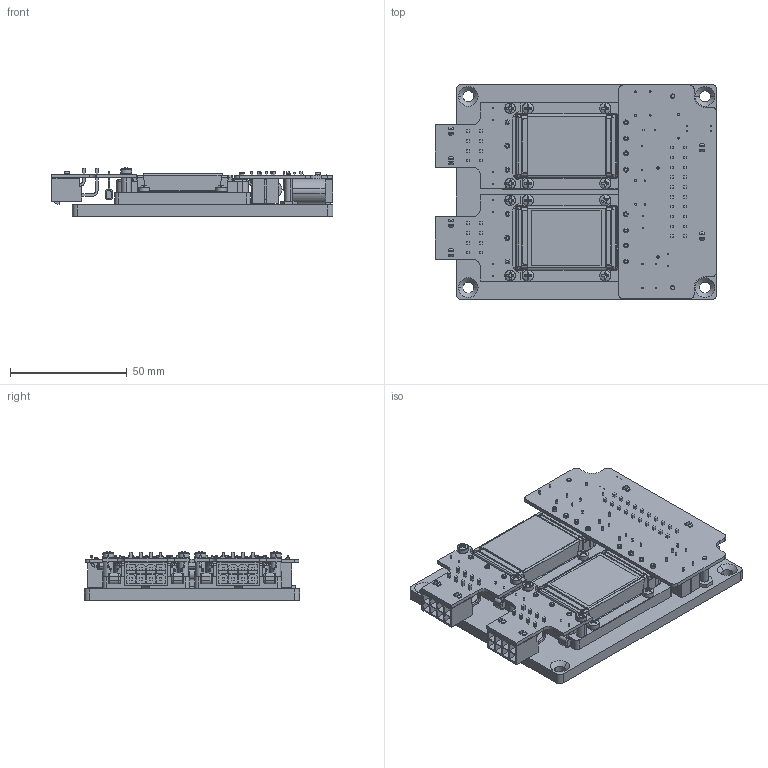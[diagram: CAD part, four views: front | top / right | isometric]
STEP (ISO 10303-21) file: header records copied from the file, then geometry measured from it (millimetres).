
FILE_DESCRIPTION (( 'STEP AP214' ), '1' );
FILE_NAME ('VA-H-PLUG-2OUT.STEP', '2011-02-16T19:04:47', ( 'Vicor Employee' ), ( 'Vicor Corporation' ), 'SwSTEP 2.0', 'SolidWorks 2011', '' );
FILE_SCHEMA (( 'AUTOMOTIVE_DESIGN' ));
Length unit declared in the file: inch
Products named in the file (1): VA-H-PLUG-2OUT
Bounding box: 120.96 x 92.28 x 20.68 mm (x, y, z)
Volume: 85679.6 mm3; surface area: 84251.4 mm2
Topology: 1 solids, 1 shells, 4199 faces, 11207 edges, 7106 vertices
Faces by surface type: plane 2353, cylinder 1296, bspline 174, cone 170, torus 142, sphere 64
Entity records: 209650 total; most frequent: CARTESIAN_POINT 52287, ORIENTED_EDGE 22238, DIRECTION 20481, EDGE_CURVE 11119, VERTEX_POINT 7106, VECTOR 7053, LINE 7053, AXIS2_PLACEMENT_3D 6714
